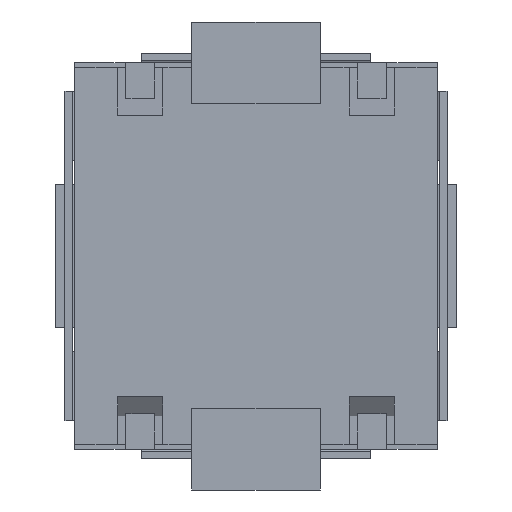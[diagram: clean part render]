
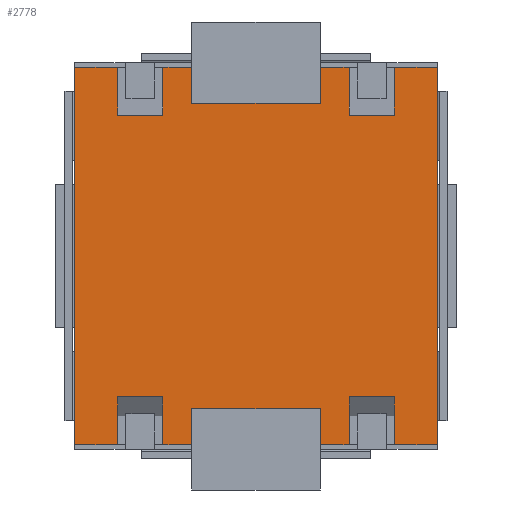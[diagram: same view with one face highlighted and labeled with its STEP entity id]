
A CAD part, front view. The second image highlights one B-rep face of the part: STEP entity #2778.
In plain terms, the highlighted planar face has unit normal (0, -1, 0).
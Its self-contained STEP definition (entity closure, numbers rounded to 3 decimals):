
#949=DIRECTION('',(-1.,0.,0.));
#950=VECTOR('',#949,0.95);
#951=CARTESIAN_POINT('',(2.9,-2.,2.95));
#952=LINE('',#951,#950);
#956=DIRECTION('',(0.,0.,-1.));
#957=VECTOR('',#956,1.);
#958=CARTESIAN_POINT('',(2.9,-2.,3.95));
#959=LINE('',#958,#957);
#963=DIRECTION('',(1.,0.,0.));
#964=VECTOR('',#963,0.9);
#965=CARTESIAN_POINT('',(2.9,-2.,3.95));
#966=LINE('',#965,#964);
#970=DIRECTION('',(0.,0.,-1.));
#971=VECTOR('',#970,7.9);
#972=CARTESIAN_POINT('',(3.8,-2.,3.95));
#973=LINE('',#972,#971);
#977=DIRECTION('',(-1.,0.,0.));
#978=VECTOR('',#977,0.9);
#979=CARTESIAN_POINT('',(3.8,-2.,-3.95));
#980=LINE('',#979,#978);
#984=DIRECTION('',(0.,0.,1.));
#985=VECTOR('',#984,1.);
#986=CARTESIAN_POINT('',(2.9,-2.,-3.95));
#987=LINE('',#986,#985);
#991=DIRECTION('',(1.,0.,0.));
#992=VECTOR('',#991,0.95);
#993=CARTESIAN_POINT('',(1.95,-2.,-2.95));
#994=LINE('',#993,#992);
#998=DIRECTION('',(0.,0.,1.));
#999=VECTOR('',#998,1.);
#1000=CARTESIAN_POINT('',(1.95,-2.,-3.95));
#1001=LINE('',#1000,#999);
#1005=DIRECTION('',(-1.,0.,0.));
#1006=VECTOR('',#1005,0.9);
#1007=CARTESIAN_POINT('',(1.95,-2.,-3.95));
#1008=LINE('',#1007,#1006);
#1012=DIRECTION('',(-1.,0.,0.));
#1013=VECTOR('',#1012,2.1);
#1014=CARTESIAN_POINT('',(1.05,-2.,-4.031));
#1015=LINE('',#1014,#1013);
#1019=DIRECTION('',(-1.,0.,0.));
#1020=VECTOR('',#1019,0.9);
#1021=CARTESIAN_POINT('',(-1.05,-2.,-3.95));
#1022=LINE('',#1021,#1020);
#1026=DIRECTION('',(0.,0.,1.));
#1027=VECTOR('',#1026,1.);
#1028=CARTESIAN_POINT('',(-1.95,-2.,-3.95));
#1029=LINE('',#1028,#1027);
#1033=DIRECTION('',(1.,0.,0.));
#1034=VECTOR('',#1033,0.95);
#1035=CARTESIAN_POINT('',(-2.9,-2.,-2.95));
#1036=LINE('',#1035,#1034);
#1040=DIRECTION('',(0.,0.,1.));
#1041=VECTOR('',#1040,1.);
#1042=CARTESIAN_POINT('',(-2.9,-2.,-3.95));
#1043=LINE('',#1042,#1041);
#1047=DIRECTION('',(-1.,0.,0.));
#1048=VECTOR('',#1047,0.9);
#1049=CARTESIAN_POINT('',(-2.9,-2.,-3.95));
#1050=LINE('',#1049,#1048);
#1054=DIRECTION('',(0.,0.,1.));
#1055=VECTOR('',#1054,7.9);
#1056=CARTESIAN_POINT('',(-3.8,-2.,-3.95));
#1057=LINE('',#1056,#1055);
#1061=DIRECTION('',(1.,0.,0.));
#1062=VECTOR('',#1061,0.9);
#1063=CARTESIAN_POINT('',(-3.8,-2.,3.95));
#1064=LINE('',#1063,#1062);
#1068=DIRECTION('',(0.,0.,-1.));
#1069=VECTOR('',#1068,1.);
#1070=CARTESIAN_POINT('',(-2.9,-2.,3.95));
#1071=LINE('',#1070,#1069);
#1075=DIRECTION('',(-1.,0.,0.));
#1076=VECTOR('',#1075,0.95);
#1077=CARTESIAN_POINT('',(-1.95,-2.,2.95));
#1078=LINE('',#1077,#1076);
#1082=DIRECTION('',(0.,0.,-1.));
#1083=VECTOR('',#1082,1.);
#1084=CARTESIAN_POINT('',(-1.95,-2.,3.95));
#1085=LINE('',#1084,#1083);
#1089=DIRECTION('',(1.,0.,0.));
#1090=VECTOR('',#1089,0.9);
#1091=CARTESIAN_POINT('',(-1.95,-2.,3.95));
#1092=LINE('',#1091,#1090);
#1096=DIRECTION('',(-1.,0.,0.));
#1097=VECTOR('',#1096,2.1);
#1098=CARTESIAN_POINT('',(1.05,-2.,4.031));
#1099=LINE('',#1098,#1097);
#1103=DIRECTION('',(1.,0.,0.));
#1104=VECTOR('',#1103,0.9);
#1105=CARTESIAN_POINT('',(1.05,-2.,3.95));
#1106=LINE('',#1105,#1104);
#1110=DIRECTION('',(0.,0.,-1.));
#1111=VECTOR('',#1110,1.);
#1112=CARTESIAN_POINT('',(1.95,-2.,3.95));
#1113=LINE('',#1112,#1111);
#1202=DIRECTION('',(0.,0.,-1.));
#1203=VECTOR('',#1202,0.081);
#1204=CARTESIAN_POINT('',(1.05,-2.,4.031));
#1205=LINE('',#1204,#1203);
#1217=DIRECTION('',(0.,0.,-1.));
#1218=VECTOR('',#1217,0.081);
#1219=CARTESIAN_POINT('',(1.05,-2.,-3.95));
#1220=LINE('',#1219,#1218);
#1260=DIRECTION('',(0.,0.,-1.));
#1261=VECTOR('',#1260,0.081);
#1262=CARTESIAN_POINT('',(-1.05,-2.,4.031));
#1263=LINE('',#1262,#1261);
#1331=DIRECTION('',(0.,0.,-1.));
#1332=VECTOR('',#1331,0.081);
#1333=CARTESIAN_POINT('',(-1.05,-2.,-3.95));
#1334=LINE('',#1333,#1332);
#1493=CARTESIAN_POINT('',(-3.8,-2.,-3.95));
#1494=CARTESIAN_POINT('',(-3.8,-2.,3.95));
#1495=VERTEX_POINT('',#1493);
#1496=VERTEX_POINT('',#1494);
#1497=CARTESIAN_POINT('',(3.8,-2.,3.95));
#1498=CARTESIAN_POINT('',(3.8,-2.,-3.95));
#1499=VERTEX_POINT('',#1497);
#1500=VERTEX_POINT('',#1498);
#1653=CARTESIAN_POINT('',(-1.05,-2.,-3.95));
#1654=VERTEX_POINT('',#1653);
#1655=CARTESIAN_POINT('',(1.05,-2.,-3.95));
#1656=VERTEX_POINT('',#1655);
#1657=CARTESIAN_POINT('',(-1.05,-2.,3.95));
#1658=VERTEX_POINT('',#1657);
#1659=CARTESIAN_POINT('',(1.05,-2.,3.95));
#1660=VERTEX_POINT('',#1659);
#1661=CARTESIAN_POINT('',(-1.05,-2.,4.031));
#1663=VERTEX_POINT('',#1661);
#1667=CARTESIAN_POINT('',(1.05,-2.,4.031));
#1668=VERTEX_POINT('',#1667);
#1670=CARTESIAN_POINT('',(-1.05,-2.,-4.031));
#1672=VERTEX_POINT('',#1670);
#1673=CARTESIAN_POINT('',(1.05,-2.,-4.031));
#1674=VERTEX_POINT('',#1673);
#1677=CARTESIAN_POINT('',(2.9,-2.,-3.95));
#1679=VERTEX_POINT('',#1677);
#1681=CARTESIAN_POINT('',(1.95,-2.,-3.95));
#1683=VERTEX_POINT('',#1681);
#1685=CARTESIAN_POINT('',(-1.95,-2.,-3.95));
#1687=VERTEX_POINT('',#1685);
#1689=CARTESIAN_POINT('',(-2.9,-2.,-3.95));
#1691=VERTEX_POINT('',#1689);
#1693=CARTESIAN_POINT('',(1.95,-2.,3.95));
#1695=VERTEX_POINT('',#1693);
#1697=CARTESIAN_POINT('',(2.9,-2.,3.95));
#1699=VERTEX_POINT('',#1697);
#1701=CARTESIAN_POINT('',(-2.9,-2.,3.95));
#1703=VERTEX_POINT('',#1701);
#1705=CARTESIAN_POINT('',(-1.95,-2.,3.95));
#1707=VERTEX_POINT('',#1705);
#1709=CARTESIAN_POINT('',(1.95,-2.,2.95));
#1711=VERTEX_POINT('',#1709);
#1714=CARTESIAN_POINT('',(2.9,-2.,2.95));
#1716=VERTEX_POINT('',#1714);
#1717=CARTESIAN_POINT('',(-2.9,-2.,2.95));
#1719=VERTEX_POINT('',#1717);
#1722=CARTESIAN_POINT('',(-1.95,-2.,2.95));
#1724=VERTEX_POINT('',#1722);
#1725=CARTESIAN_POINT('',(2.9,-2.,-2.95));
#1727=VERTEX_POINT('',#1725);
#1730=CARTESIAN_POINT('',(1.95,-2.,-2.95));
#1732=VERTEX_POINT('',#1730);
#1733=CARTESIAN_POINT('',(-1.95,-2.,-2.95));
#1735=VERTEX_POINT('',#1733);
#1738=CARTESIAN_POINT('',(-2.9,-2.,-2.95));
#1740=VERTEX_POINT('',#1738);
#2731=CARTESIAN_POINT('',(0.,-2.,0.));
#2732=DIRECTION('',(0.,1.,0.));
#2733=DIRECTION('',(1.,0.,0.));
#2734=AXIS2_PLACEMENT_3D('',#2731,#2732,#2733);
#2735=PLANE('',#2734);
#2736=ORIENTED_EDGE('',*,*,#2633,.F.);
#2737=ORIENTED_EDGE('',*,*,#2726,.F.);
#2738=ORIENTED_EDGE('',*,*,#2600,.T.);
#2739=ORIENTED_EDGE('',*,*,#1963,.T.);
#2740=ORIENTED_EDGE('',*,*,#1982,.T.);
#2742=ORIENTED_EDGE('',*,*,#2741,.T.);
#2744=ORIENTED_EDGE('',*,*,#2743,.F.);
#2746=ORIENTED_EDGE('',*,*,#2745,.F.);
#2747=ORIENTED_EDGE('',*,*,#2007,.T.);
#2749=ORIENTED_EDGE('',*,*,#2748,.T.);
#2751=ORIENTED_EDGE('',*,*,#2750,.T.);
#2753=ORIENTED_EDGE('',*,*,#2752,.F.);
#2754=ORIENTED_EDGE('',*,*,#1999,.T.);
#2756=ORIENTED_EDGE('',*,*,#2755,.T.);
#2757=ORIENTED_EDGE('',*,*,#2342,.F.);
#2759=ORIENTED_EDGE('',*,*,#2758,.F.);
#2760=ORIENTED_EDGE('',*,*,#1987,.T.);
#2761=ORIENTED_EDGE('',*,*,#1843,.T.);
#2762=ORIENTED_EDGE('',*,*,#2595,.T.);
#2764=ORIENTED_EDGE('',*,*,#2763,.T.);
#2765=ORIENTED_EDGE('',*,*,#2547,.F.);
#2766=ORIENTED_EDGE('',*,*,#2565,.F.);
#2767=ORIENTED_EDGE('',*,*,#2587,.T.);
#2769=ORIENTED_EDGE('',*,*,#2768,.F.);
#2771=ORIENTED_EDGE('',*,*,#2770,.F.);
#2773=ORIENTED_EDGE('',*,*,#2772,.T.);
#2774=ORIENTED_EDGE('',*,*,#2579,.T.);
#2775=ORIENTED_EDGE('',*,*,#2615,.T.);
#2776=EDGE_LOOP('',(#2736,#2737,#2738,#2739,#2740,#2742,#2744,#2746,#2747,#2749,
#2751,#2753,#2754,#2756,#2757,#2759,#2760,#2761,#2762,#2764,#2765,#2766,#2767,
#2769,#2771,#2773,#2774,#2775));
#2777=FACE_OUTER_BOUND('',#2776,.F.);
#1843=EDGE_CURVE('',#1495,#1496,#1057,.T.);
#1963=EDGE_CURVE('',#1499,#1500,#973,.T.);
#1982=EDGE_CURVE('',#1500,#1679,#980,.T.);
#1987=EDGE_CURVE('',#1691,#1495,#1050,.T.);
#1999=EDGE_CURVE('',#1654,#1687,#1022,.T.);
#2007=EDGE_CURVE('',#1683,#1656,#1008,.T.);
#2342=EDGE_CURVE('',#1740,#1735,#1036,.T.);
#2547=EDGE_CURVE('',#1724,#1719,#1078,.T.);
#2565=EDGE_CURVE('',#1707,#1724,#1085,.T.);
#2579=EDGE_CURVE('',#1660,#1695,#1106,.T.);
#2587=EDGE_CURVE('',#1707,#1658,#1092,.T.);
#2595=EDGE_CURVE('',#1496,#1703,#1064,.T.);
#2600=EDGE_CURVE('',#1699,#1499,#966,.T.);
#2615=EDGE_CURVE('',#1695,#1711,#1113,.T.);
#2633=EDGE_CURVE('',#1716,#1711,#952,.T.);
#2726=EDGE_CURVE('',#1699,#1716,#959,.T.);
#2741=EDGE_CURVE('',#1679,#1727,#987,.T.);
#2743=EDGE_CURVE('',#1732,#1727,#994,.T.);
#2745=EDGE_CURVE('',#1683,#1732,#1001,.T.);
#2748=EDGE_CURVE('',#1656,#1674,#1220,.T.);
#2750=EDGE_CURVE('',#1674,#1672,#1015,.T.);
#2752=EDGE_CURVE('',#1654,#1672,#1334,.T.);
#2755=EDGE_CURVE('',#1687,#1735,#1029,.T.);
#2758=EDGE_CURVE('',#1691,#1740,#1043,.T.);
#2763=EDGE_CURVE('',#1703,#1719,#1071,.T.);
#2768=EDGE_CURVE('',#1663,#1658,#1263,.T.);
#2770=EDGE_CURVE('',#1668,#1663,#1099,.T.);
#2772=EDGE_CURVE('',#1668,#1660,#1205,.T.);
#2778=ADVANCED_FACE('',(#2777),#2735,.F.);
